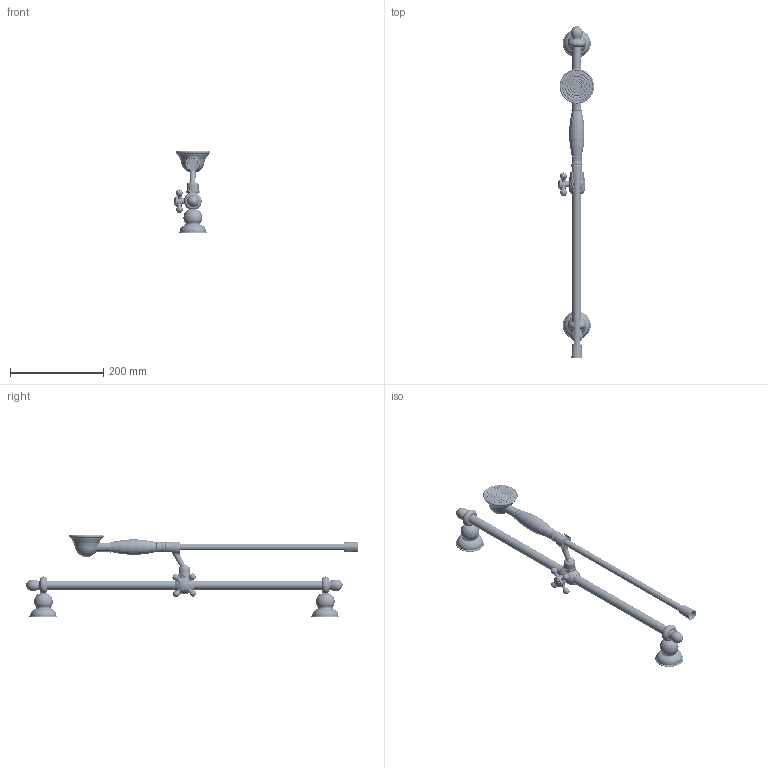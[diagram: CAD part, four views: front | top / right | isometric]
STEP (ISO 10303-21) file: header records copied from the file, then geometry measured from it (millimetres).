
FILE_DESCRIPTION(/* description */ (''),/* implementation_level */ '2;1');
FILE_NAME(/* name */ 'D:/Omnires/Export3_Omnires/rys_igs/5908223785795_stp.step',/* time_stamp */ '2020-08-24T14:07:12+02:00',/* author */ (''),/* organization */ (''),/* preprocessor_version */ 'ST-DEVELOPER v18.1',/* originating_system */ 'Autodesk Translation Framework v9.3.0.1241',/* authorisation */ '');
FILE_SCHEMA (('AUTOMOTIVE_DESIGN { 1 0 10303 214 3 1 1 }'));
Products named in the file (3): 5908223785795_dwg; AVE_RENDER; AVE_GLOBAL
Assembly tree (9 placements, depth 2):
  5908223785795_dwg
    AVE_RENDER  x8
    AVE_GLOBAL
Bounding box: 77.67 x 710.71 x 175.34 mm (x, y, z)
Volume: 318485.1 mm3; surface area: 149427.1 mm2
Topology: 6 solids, 18 shells, 58561 faces, 88136 edges, 29490 vertices
Faces by surface type: plane 58561
Entity records: 1144099 total; most frequent: DIRECTION 205282, CARTESIAN_POINT 176199, ORIENTED_EDGE 175745, LINE 88136, VECTOR 88136, EDGE_CURVE 88136, AXIS2_PLACEMENT_3D 58573, FACE_OUTER_BOUND 58561
